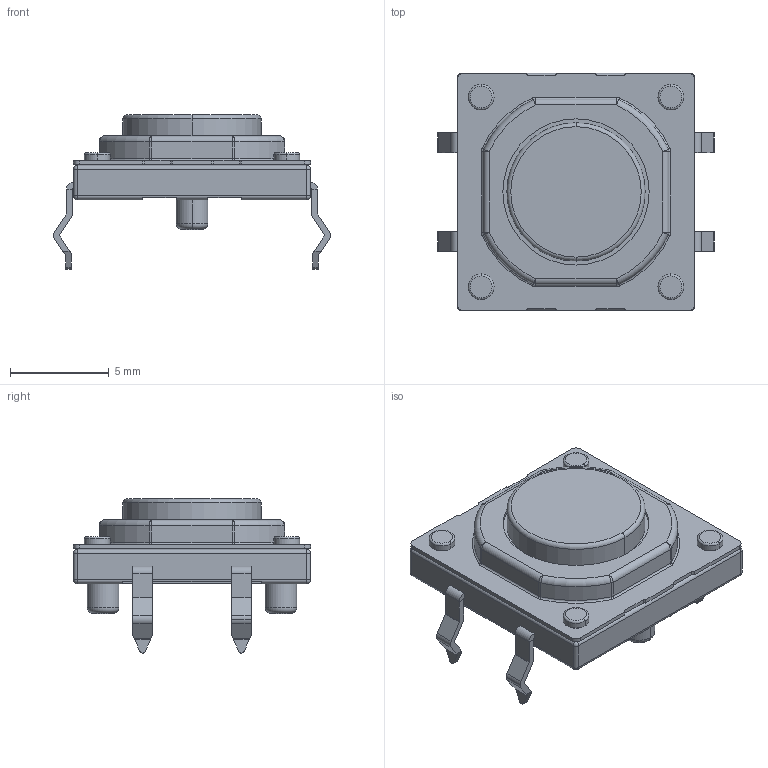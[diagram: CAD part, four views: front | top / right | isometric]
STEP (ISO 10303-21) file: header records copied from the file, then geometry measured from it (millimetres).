
FILE_DESCRIPTION (( 'STEP AP214' ), '1' );
FILE_NAME ('SKQEAB.STEP', '2009-07-30T07:36:28', ( '' ), ( '' ), 'SwSTEP 2.0', 'SolidWorks 2007', '' );
FILE_SCHEMA (( 'AUTOMOTIVE_DESIGN' ));
Length unit declared in the file: millimetre
Products named in the file (1): SKQEAB
Bounding box: 14 x 12 x 7.8 mm (x, y, z)
Volume: 425.7 mm3; surface area: 582 mm2
Topology: 1 solids, 1 shells, 278 faces, 692 edges, 416 vertices
Faces by surface type: cylinder 118, plane 114, torus 30, sphere 16
Entity records: 10244 total; most frequent: DIRECTION 1516, CARTESIAN_POINT 1419, ORIENTED_EDGE 1352, EDGE_CURVE 676, AXIS2_PLACEMENT_3D 577, VERTEX_POINT 416, LINE 362, VECTOR 362
